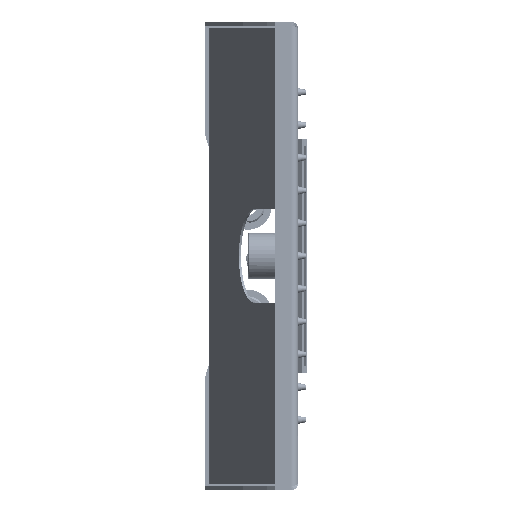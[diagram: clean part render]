
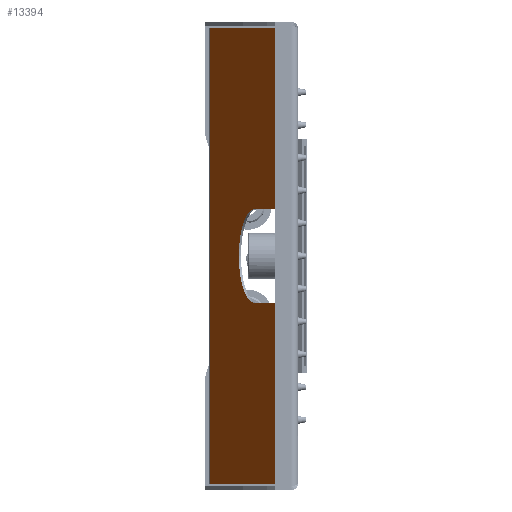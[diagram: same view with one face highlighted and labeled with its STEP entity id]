
A CAD part, left-side view. The second image highlights one B-rep face of the part: STEP entity #13394.
In plain terms, the highlighted planar face has unit normal (-0.322, 0.947, 0).
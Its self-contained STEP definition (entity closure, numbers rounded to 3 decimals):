
#306 = VERTEX_POINT ( 'NONE', #26446 ) ;
#553 = ORIENTED_EDGE ( 'NONE', *, *, #7190, .T. ) ;
#1272 = ORIENTED_EDGE ( 'NONE', *, *, #40254, .T. ) ;
#1376 = PLANE ( 'NONE',  #46411 ) ;
#1900 = CARTESIAN_POINT ( 'NONE',  ( 191.638, 0.553, -19.158 ) ) ;
#2072 = CARTESIAN_POINT ( 'NONE',  ( 192.863, 0.969, 18.747 ) ) ;
#2494 = CARTESIAN_POINT ( 'NONE',  ( 201.05, 3.75, -97.5 ) ) ;
#3662 = VECTOR ( 'NONE', #49786, 1000. ) ;
#4771 = ORIENTED_EDGE ( 'NONE', *, *, #6526, .T. ) ;
#5142 =( BOUNDED_CURVE ( )  B_SPLINE_CURVE ( 3, ( #39285, #57513, #48396, #2072 ),
 .UNSPECIFIED., .F., .F. ) 
 B_SPLINE_CURVE_WITH_KNOTS ( ( 4, 4 ),
 ( 0., 1.215 ),
 .UNSPECIFIED. ) 
 CURVE ( )  GEOMETRIC_REPRESENTATION_ITEM ( )  RATIONAL_B_SPLINE_CURVE ( ( 1., 0.881, 0.881, 1. ) ) 
 REPRESENTATION_ITEM ( '' )  );
#5338 = ORIENTED_EDGE ( 'NONE', *, *, #49290, .T. ) ;
#5567 = LINE ( 'NONE', #23738, #56544 ) ;
#5667 = CARTESIAN_POINT ( 'NONE',  ( 192.863, 0.969, 18.747 ) ) ;
#5933 = FACE_OUTER_BOUND ( 'NONE', #23425, .T. ) ;
#5936 = CARTESIAN_POINT ( 'NONE',  ( 185.894, -1.395, -20. ) ) ;
#6526 = EDGE_CURVE ( 'NONE', #31622, #54437, #40665, .T. ) ;
#6754 = ORIENTED_EDGE ( 'NONE', *, *, #53541, .F. ) ;
#7190 = EDGE_CURVE ( 'NONE', #50555, #19260, #55855, .T. ) ;
#7424 = VERTEX_POINT ( 'NONE', #15847 ) ;
#8597 = CARTESIAN_POINT ( 'NONE',  ( 201.05, 3.75, 20. ) ) ;
#9577 = CARTESIAN_POINT ( 'NONE',  ( 191.638, 0.553, -19.158 ) ) ;
#9863 = CARTESIAN_POINT ( 'NONE',  ( 201.05, 3.75, -97.502 ) ) ;
#10183 = CARTESIAN_POINT ( 'NONE',  ( 159.257, -10.447, -20. ) ) ;
#10386 = VECTOR ( 'NONE', #34865, 1000. ) ;
#10620 = VERTEX_POINT ( 'NONE', #51775 ) ;
#12267 = ORIENTED_EDGE ( 'NONE', *, *, #45694, .T. ) ;
#13394 = ADVANCED_FACE ( 'NONE', ( #5933 ), #1376, .F. ) ;
#14062 = CARTESIAN_POINT ( 'NONE',  ( 201.05, 3.75, -20. ) ) ;
#14826 = VECTOR ( 'NONE', #31000, 1000. ) ;
#15035 = VERTEX_POINT ( 'NONE', #41328 ) ;
#15076 = LINE ( 'NONE', #29601, #32260 ) ;
#15847 = CARTESIAN_POINT ( 'NONE',  ( 192.863, 0.969, 18.747 ) ) ;
#19171 = DIRECTION ( 'NONE',  ( 0.947, 0.322, 0. ) ) ;
#19260 = VERTEX_POINT ( 'NONE', #5936 ) ;
#19623 = ORIENTED_EDGE ( 'NONE', *, *, #57524, .T. ) ;
#23217 = VECTOR ( 'NONE', #52162, 1000. ) ;
#23425 = EDGE_LOOP ( 'NONE', ( #59315, #553, #1272, #4771, #19623, #51151, #12267, #42053, #5338, #6754, #41823 ) ) ;
#23738 = CARTESIAN_POINT ( 'NONE',  ( 201.05, 3.75, 97.5 ) ) ;
#24464 = DIRECTION ( 'NONE',  ( 0., 0., -1. ) ) ;
#26205 = VERTEX_POINT ( 'NONE', #59737 ) ;
#26446 = CARTESIAN_POINT ( 'NONE',  ( 242.687, 17.894, -97.5 ) ) ;
#28075 = CARTESIAN_POINT ( 'NONE',  ( 188.293, -0.584, 20. ) ) ;
#28362 = CARTESIAN_POINT ( 'NONE',  ( 200.421, 3.536, -16.525 ) ) ;
#29114 = EDGE_CURVE ( 'NONE', #50555, #39939, #42464, .T. ) ;
#29601 = CARTESIAN_POINT ( 'NONE',  ( 159.257, -10.447, -97.502 ) ) ;
#30337 = CARTESIAN_POINT ( 'NONE',  ( 191.638, 0.553, -19.158 ) ) ;
#31000 = DIRECTION ( 'NONE',  ( -0.947, -0.322, 0. ) ) ;
#31291 = LINE ( 'NONE', #8597, #14826 ) ;
#31622 = VERTEX_POINT ( 'NONE', #30337 ) ;
#32260 = VECTOR ( 'NONE', #24464, 1000. ) ;
#33681 = CARTESIAN_POINT ( 'NONE',  ( 187.851, -0.734, -20. ) ) ;
#34637 = B_SPLINE_CURVE_WITH_KNOTS ( 'NONE', 3,
 ( #5667, #51970, #28075, #37427 ),
 .UNSPECIFIED., .F., .F.,
 ( 4, 4 ),
 ( 0., 1. ),
 .UNSPECIFIED. ) ;
#34865 = DIRECTION ( 'NONE',  ( -0.947, -0.322, 0. ) ) ;
#35535 = CARTESIAN_POINT ( 'NONE',  ( 242.687, 17.894, 97.5 ) ) ;
#35574 = VERTEX_POINT ( 'NONE', #52224 ) ;
#36779 = CARTESIAN_POINT ( 'NONE',  ( 159.257, -10.447, -97.5 ) ) ;
#37427 = CARTESIAN_POINT ( 'NONE',  ( 185.895, -1.396, 20. ) ) ;
#37716 = CARTESIAN_POINT ( 'NONE',  ( 205.895, 5.396, -9.169 ) ) ;
#38300 = DIRECTION ( 'NONE',  ( 0.322, -0.947, 0. ) ) ;
#38596 = DIRECTION ( 'NONE',  ( 0., 0., -1. ) ) ;
#39285 = CARTESIAN_POINT ( 'NONE',  ( 205.895, 5.396, 0. ) ) ;
#39939 = VERTEX_POINT ( 'NONE', #36779 ) ;
#40254 = EDGE_CURVE ( 'NONE', #19260, #31622, #58632, .T. ) ;
#40296 = EDGE_CURVE ( 'NONE', #306, #39939, #47924, .T. ) ;
#40665 =( BOUNDED_CURVE ( )  B_SPLINE_CURVE ( 3, ( #9577, #28362, #37716, #51057 ),
 .UNSPECIFIED., .F., .T. ) 
 B_SPLINE_CURVE_WITH_KNOTS ( ( 4, 4 ),
 ( 5.004, 6.283 ),
 .UNSPECIFIED. ) 
 CURVE ( )  GEOMETRIC_REPRESENTATION_ITEM ( )  RATIONAL_B_SPLINE_CURVE ( ( 1., 0.868, 0.868, 1. ) ) 
 REPRESENTATION_ITEM ( '' )  );
#41328 = CARTESIAN_POINT ( 'NONE',  ( 185.895, -1.396, 20. ) ) ;
#41823 = ORIENTED_EDGE ( 'NONE', *, *, #40296, .T. ) ;
#42053 = ORIENTED_EDGE ( 'NONE', *, *, #46313, .F. ) ;
#42464 = LINE ( 'NONE', #56421, #23217 ) ;
#44940 = LINE ( 'NONE', #35535, #3662 ) ;
#45694 = EDGE_CURVE ( 'NONE', #15035, #26205, #31291, .T. ) ;
#46313 = EDGE_CURVE ( 'NONE', #10620, #26205, #15076, .T. ) ;
#46411 = AXIS2_PLACEMENT_3D ( 'NONE', #9863, #38300, #38596 ) ;
#47625 = CARTESIAN_POINT ( 'NONE',  ( 189.765, -0.083, -19.719 ) ) ;
#47924 = LINE ( 'NONE', #2494, #10386 ) ;
#48396 = CARTESIAN_POINT ( 'NONE',  ( 200.963, 3.72, 15.737 ) ) ;
#48517 = CARTESIAN_POINT ( 'NONE',  ( 185.894, -1.395, -20. ) ) ;
#49290 = EDGE_CURVE ( 'NONE', #10620, #35574, #5567, .T. ) ;
#49786 = DIRECTION ( 'NONE',  ( 0., 0., 1. ) ) ;
#50555 = VERTEX_POINT ( 'NONE', #10183 ) ;
#50692 = DIRECTION ( 'NONE',  ( 0.947, 0.322, 0. ) ) ;
#50713 = VECTOR ( 'NONE', #50692, 1000. ) ;
#50910 = CARTESIAN_POINT ( 'NONE',  ( 205.895, 5.396, 0. ) ) ;
#51057 = CARTESIAN_POINT ( 'NONE',  ( 205.895, 5.396, 0. ) ) ;
#51151 = ORIENTED_EDGE ( 'NONE', *, *, #58016, .T. ) ;
#51775 = CARTESIAN_POINT ( 'NONE',  ( 159.257, -10.447, 97.5 ) ) ;
#51970 = CARTESIAN_POINT ( 'NONE',  ( 190.615, 0.205, 19.582 ) ) ;
#52162 = DIRECTION ( 'NONE',  ( 0., 0., -1. ) ) ;
#52224 = CARTESIAN_POINT ( 'NONE',  ( 242.687, 17.894, 97.5 ) ) ;
#53541 = EDGE_CURVE ( 'NONE', #306, #35574, #44940, .T. ) ;
#54437 = VERTEX_POINT ( 'NONE', #50910 ) ;
#55855 = LINE ( 'NONE', #14062, #50713 ) ;
#56421 = CARTESIAN_POINT ( 'NONE',  ( 159.257, -10.447, -97.502 ) ) ;
#56544 = VECTOR ( 'NONE', #19171, 1000. ) ;
#57513 = CARTESIAN_POINT ( 'NONE',  ( 205.895, 5.396, 8.641 ) ) ;
#57524 = EDGE_CURVE ( 'NONE', #54437, #7424, #5142, .T. ) ;
#58016 = EDGE_CURVE ( 'NONE', #7424, #15035, #34637, .T. ) ;
#58632 = B_SPLINE_CURVE_WITH_KNOTS ( 'NONE', 3,
 ( #48517, #33681, #47625, #1900 ),
 .UNSPECIFIED., .F., .F.,
 ( 4, 4 ),
 ( 0., 1. ),
 .UNSPECIFIED. ) ;
#59315 = ORIENTED_EDGE ( 'NONE', *, *, #29114, .F. ) ;
#59737 = CARTESIAN_POINT ( 'NONE',  ( 159.257, -10.447, 20. ) ) ;
